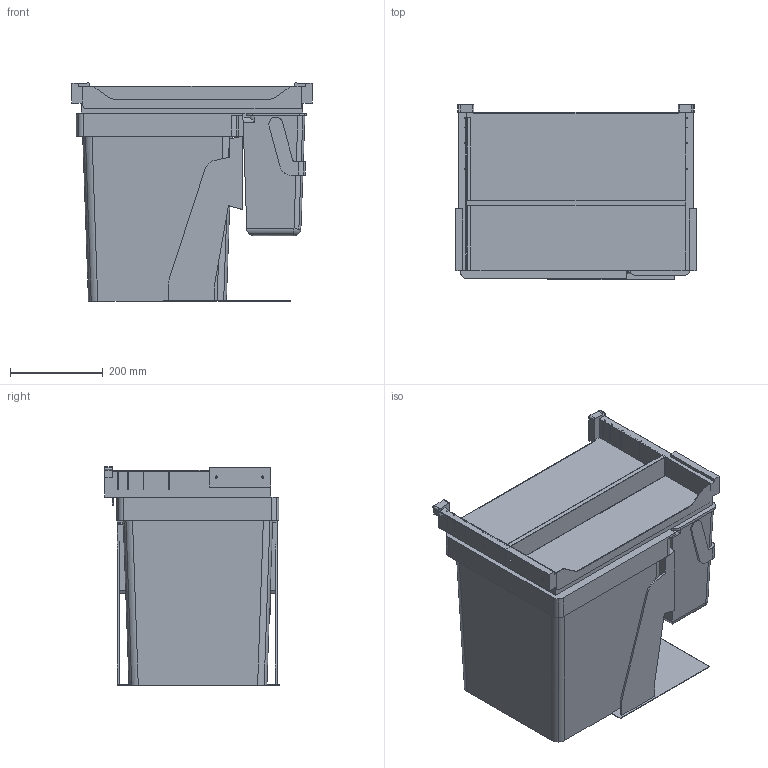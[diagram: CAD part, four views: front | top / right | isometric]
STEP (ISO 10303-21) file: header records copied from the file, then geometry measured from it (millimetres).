
FILE_DESCRIPTION(('STEP AP242'),'1');
FILE_NAME('OPO_53.433.60_volu_3d.stp','2025-11-08T20:31:27',(' '),(' '),'Spatial InterOp 3D',' ',' ');
FILE_SCHEMA(('AP242_MANAGED_MODEL_BASED_3D_ENGINEERING_MIM_LF {1 0 10303 442 1 1 4}'));
Length unit declared in the file: millimetre
Products named in the file (1): 1
Bounding box: 518 x 376.54 x 469.99 mm (x, y, z)
Volume: 51105589.2 mm3; surface area: 1621738 mm2
Topology: 1 solids, 1 shells, 362 faces, 1065 edges, 687 vertices
Faces by surface type: plane 200, cylinder 142, cone 8, sphere 6, extrusion 4, bspline 2
Entity records: 15237 total; most frequent: CARTESIAN_POINT 2472, ORIENTED_EDGE 2114, DIRECTION 2049, EDGE_CURVE 1057, VECTOR 753, LINE 749, VERTEX_POINT 687, AXIS2_PLACEMENT_3D 648
